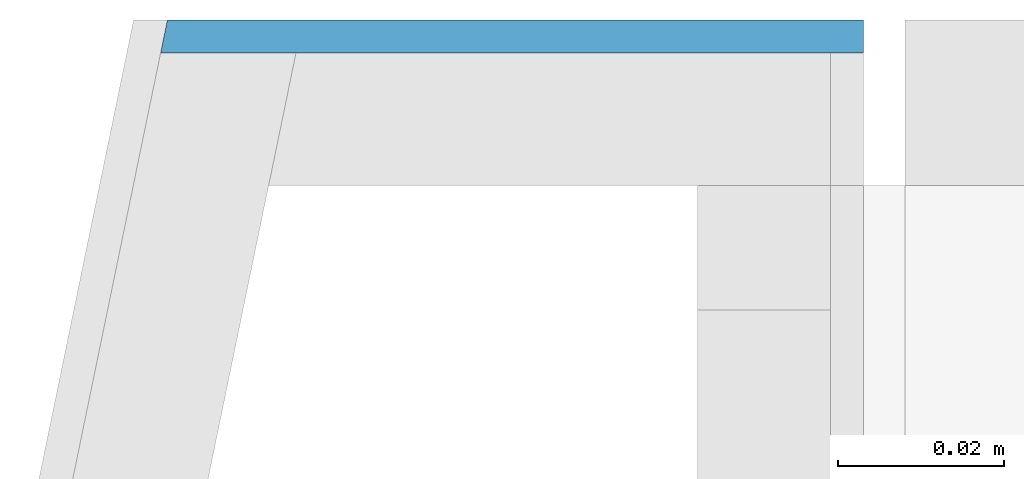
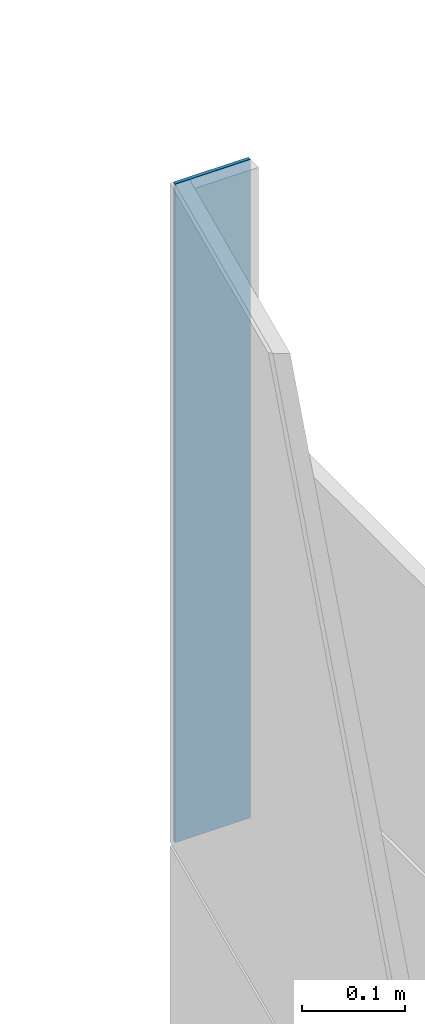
# One storey, part 33 of 125: 1 building element part, 1 element without a shape of its own.
"""IFC2X3 building model written with IfcOpenShell, lengths in millimetres."""

from ifc_helpers import new_model, entity, si_unit, converted_unit, direction, frame, origin, place, context, subcontext, project, spatial, polyline, outline, extrude, material, type_object, element, aggregate, save


model = new_model("IFC2X3")

# Units and contexts
model_context = context("Model", 3, precision=0.01, world=origin(), true_north=direction((6.123233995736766e-17, 1.0)))
plan_context = context("Plan", 3, precision=0.01, world=origin(), true_north=direction((6.123233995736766e-17, 1.0)))
body_context = subcontext(model_context, "Body", "Model", "MODEL_VIEW")
ifc_project = project(units=[si_unit("LENGTHUNIT", "METRE", prefix="MILLI"), converted_unit("PLANEANGLEUNIT", "DEGREE", entity("IfcPlaneAngleMeasure", 0.017453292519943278), si_unit("PLANEANGLEUNIT", "RADIAN"), dimensions=[0, 0, 0, 0, 0, 0, 0]), si_unit("AREAUNIT", "SQUARE_METRE")], contexts=[model_context, plan_context])

# Site, building, storey
site_placement = place(None, origin())
site = spatial("IfcSite", under=ifc_project, at=site_placement, Name="Default", CompositionType="ELEMENT")
building_placement = place(site_placement, origin())
building = spatial("IfcBuilding", under=site, at=building_placement, CompositionType="ELEMENT")
storey_placement = place(building_placement, frame((0.0, 0.0, 3125.0)))
storey = spatial("IfcBuildingStorey", under=building, at=storey_placement, Name="2K", CompositionType="ELEMENT", Elevation=3125.0)

# Wall, building element part
wall_type = type_object("IfcWallType", Name="Basic Wall:VS-komposiit", PredefinedType="STANDARD")
wall_placement = place(storey_placement, frame((4963.640832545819, 17442.0, -1010.0)))
wall = element("IfcWall", 1, at=wall_placement, inside=storey, type_object=wall_type, Name="Basic Wall:VS-komposiit", ObjectType="Basic Wall:VS-komposiit")
ifc_material = material(Name="_K. Välisviimistlus. Alumiinium-komposiitplaat")
building_element_part_placement = place(wall_placement, origin())
building_element_part = element("IfcBuildingElementPart", 2, at=building_element_part_placement, material=ifc_material, Name="Part", context=body_context, shape_type="SweptSolid", body=[
    extrude(outline(polyline([(-42.61260185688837, -2.0), (42.20013519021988, -2.0), (42.20013519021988, 2.0), (-41.78766852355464, 2.0), (-42.61260185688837, -2.0)])), frame((29.57562070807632, 8.0, 12927.499999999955)), (0.0, 0.0, 1.0), 783.4702884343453),
])
aggregate(wall, [building_element_part])

save(model, "model.ifc")
